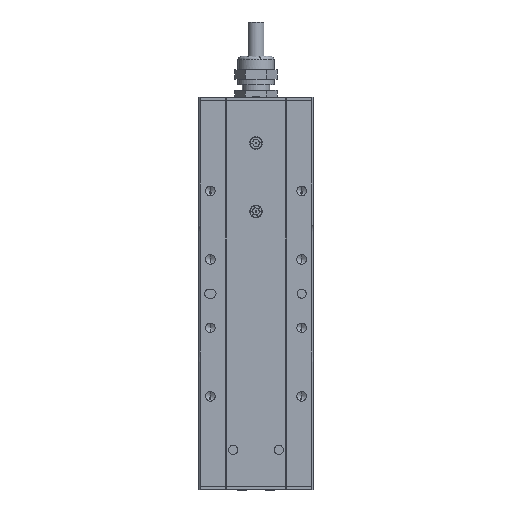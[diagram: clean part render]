
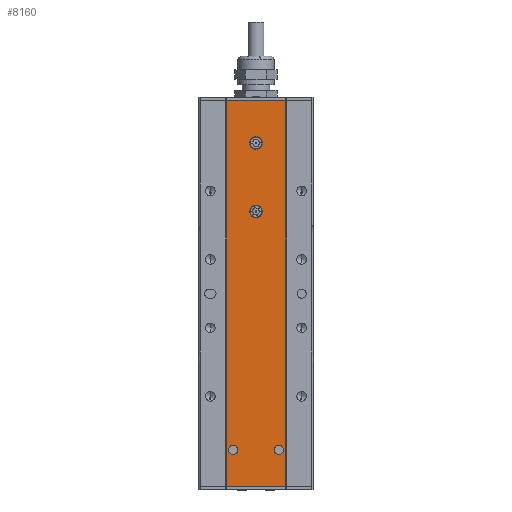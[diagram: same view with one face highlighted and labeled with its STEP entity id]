
A CAD part, front view. The second image highlights one B-rep face of the part: STEP entity #8160.
In plain terms, the highlighted planar face has unit normal (0, -1, 0).
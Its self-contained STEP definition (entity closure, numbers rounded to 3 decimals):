
#247 = CARTESIAN_POINT ( 'NONE',  ( -14.473, -32.808, 151.5 ) ) ;
#591 = EDGE_CURVE ( 'NONE', #10773, #997, #2281, .T. ) ;
#984 = EDGE_CURVE ( 'NONE', #15352, #23747, #11794, .T. ) ;
#997 = VERTEX_POINT ( 'NONE', #9321 ) ;
#1211 = CARTESIAN_POINT ( 'NONE',  ( 8.527, -32.808, -1.5 ) ) ;
#1873 = CIRCLE ( 'NONE', #29083, 2. ) ;
#1974 = ORIENTED_EDGE ( 'NONE', *, *, #20719, .F. ) ;
#2120 = DIRECTION ( 'NONE',  ( 0., 0., 1. ) ) ;
#2281 = LINE ( 'NONE', #13129, #8022 ) ;
#2317 = CARTESIAN_POINT ( 'NONE',  ( -1.473, -32.808, 133. ) ) ;
#2441 = CIRCLE ( 'NONE', #31948, 2.75 ) ;
#3198 = CARTESIAN_POINT ( 'NONE',  ( -1.473, -32.808, 103. ) ) ;
#3621 = EDGE_LOOP ( 'NONE', ( #14275, #32493 ) ) ;
#3631 = DIRECTION ( 'NONE',  ( 0., -1., 0. ) ) ;
#3708 = VECTOR ( 'NONE', #33297, 1000. ) ;
#4492 = ORIENTED_EDGE ( 'NONE', *, *, #591, .T. ) ;
#4575 = DIRECTION ( 'NONE',  ( 0., -1., 0. ) ) ;
#5421 = EDGE_CURVE ( 'NONE', #28842, #7951, #9418, .T. ) ;
#5681 = VERTEX_POINT ( 'NONE', #25916 ) ;
#5688 = ORIENTED_EDGE ( 'NONE', *, *, #25549, .T. ) ;
#5795 = VERTEX_POINT ( 'NONE', #18660 ) ;
#5843 = AXIS2_PLACEMENT_3D ( 'NONE', #25371, #30870, #20236 ) ;
#6345 = ORIENTED_EDGE ( 'NONE', *, *, #32225, .F. ) ;
#6439 = EDGE_LOOP ( 'NONE', ( #6345, #18085 ) ) ;
#6615 = ORIENTED_EDGE ( 'NONE', *, *, #16419, .F. ) ;
#7038 = EDGE_CURVE ( 'NONE', #10773, #15352, #13722, .T. ) ;
#7196 = AXIS2_PLACEMENT_3D ( 'NONE', #26070, #4575, #15403 ) ;
#7325 = DIRECTION ( 'NONE',  ( -1., 0., 0. ) ) ;
#7668 = CARTESIAN_POINT ( 'NONE',  ( 1.277, -32.808, 133. ) ) ;
#7951 = VERTEX_POINT ( 'NONE', #33763 ) ;
#7953 = CARTESIAN_POINT ( 'NONE',  ( -14.473, -32.808, 151.5 ) ) ;
#8022 = VECTOR ( 'NONE', #2120, 1000. ) ;
#8121 = EDGE_CURVE ( 'NONE', #33781, #5795, #2441, .T. ) ;
#8160 = ADVANCED_FACE ( 'NONE', ( #30353, #16890, #8889, #19715, #30532 ), #11165, .F. ) ;
#8247 = EDGE_CURVE ( 'NONE', #35024, #26654, #1873, .T. ) ;
#8366 = EDGE_LOOP ( 'NONE', ( #6615, #21748 ) ) ;
#8670 = CIRCLE ( 'NONE', #28474, 2. ) ;
#8889 = FACE_BOUND ( 'NONE', #8366, .T. ) ;
#9321 = CARTESIAN_POINT ( 'NONE',  ( 11.527, -32.808, 151.5 ) ) ;
#9418 = CIRCLE ( 'NONE', #25269, 2. ) ;
#9460 = CARTESIAN_POINT ( 'NONE',  ( -11.473, -32.808, -1.5 ) ) ;
#10773 = VERTEX_POINT ( 'NONE', #32602 ) ;
#10991 = EDGE_LOOP ( 'NONE', ( #5688, #17618, #21182, #4492 ) ) ;
#10999 = DIRECTION ( 'NONE',  ( 0., -1., 0. ) ) ;
#11165 = PLANE ( 'NONE',  #5843 ) ;
#11784 = CIRCLE ( 'NONE', #28203, 2.75 ) ;
#11794 = LINE ( 'NONE', #22471, #3708 ) ;
#13129 = CARTESIAN_POINT ( 'NONE',  ( 11.527, -32.808, -17.5 ) ) ;
#13449 = CARTESIAN_POINT ( 'NONE',  ( -14.473, -32.808, -17.5 ) ) ;
#13588 = LINE ( 'NONE', #247, #25883 ) ;
#13722 = LINE ( 'NONE', #32724, #26505 ) ;
#13922 = DIRECTION ( 'NONE',  ( -1., 0., 0. ) ) ;
#13932 = DIRECTION ( 'NONE',  ( 0., -1., 0. ) ) ;
#14275 = ORIENTED_EDGE ( 'NONE', *, *, #8247, .F. ) ;
#14283 = CARTESIAN_POINT ( 'NONE',  ( -1.473, -32.808, 103. ) ) ;
#14383 = DIRECTION ( 'NONE',  ( -1., 0., 0. ) ) ;
#14466 = DIRECTION ( 'NONE',  ( 1., 0., 0. ) ) ;
#14828 = CARTESIAN_POINT ( 'NONE',  ( -11.473, -32.808, -1.5 ) ) ;
#14914 = VERTEX_POINT ( 'NONE', #7668 ) ;
#15352 = VERTEX_POINT ( 'NONE', #13449 ) ;
#15403 = DIRECTION ( 'NONE',  ( 1., 0., 0. ) ) ;
#15537 = DIRECTION ( 'NONE',  ( -1., 0., 0. ) ) ;
#16419 = EDGE_CURVE ( 'NONE', #7951, #28842, #8670, .T. ) ;
#16890 = FACE_BOUND ( 'NONE', #6439, .T. ) ;
#17618 = ORIENTED_EDGE ( 'NONE', *, *, #984, .F. ) ;
#18085 = ORIENTED_EDGE ( 'NONE', *, *, #8121, .F. ) ;
#18660 = CARTESIAN_POINT ( 'NONE',  ( 1.277, -32.808, 103. ) ) ;
#19715 = FACE_OUTER_BOUND ( 'NONE', #10991, .T. ) ;
#20112 = DIRECTION ( 'NONE',  ( 0., -1., 0. ) ) ;
#20236 = DIRECTION ( 'NONE',  ( -1., 0., 0. ) ) ;
#20407 = EDGE_CURVE ( 'NONE', #26654, #35024, #32120, .T. ) ;
#20719 = EDGE_CURVE ( 'NONE', #5681, #14914, #30971, .T. ) ;
#21182 = ORIENTED_EDGE ( 'NONE', *, *, #7038, .F. ) ;
#21680 = CIRCLE ( 'NONE', #29612, 2.75 ) ;
#21748 = ORIENTED_EDGE ( 'NONE', *, *, #5421, .F. ) ;
#22471 = CARTESIAN_POINT ( 'NONE',  ( -14.473, -32.808, -17.5 ) ) ;
#22561 = EDGE_CURVE ( 'NONE', #14914, #5681, #21680, .T. ) ;
#23747 = VERTEX_POINT ( 'NONE', #7953 ) ;
#24783 = CARTESIAN_POINT ( 'NONE',  ( 10.527, -32.808, -1.5 ) ) ;
#25015 = DIRECTION ( 'NONE',  ( 1., 0., 0. ) ) ;
#25269 = AXIS2_PLACEMENT_3D ( 'NONE', #9460, #20112, #7325 ) ;
#25371 = CARTESIAN_POINT ( 'NONE',  ( -14.473, -32.808, -17.5 ) ) ;
#25549 = EDGE_CURVE ( 'NONE', #997, #23747, #13588, .T. ) ;
#25827 = DIRECTION ( 'NONE',  ( 0., -1., 0. ) ) ;
#25883 = VECTOR ( 'NONE', #13922, 1000. ) ;
#25916 = CARTESIAN_POINT ( 'NONE',  ( -4.223, -32.808, 133. ) ) ;
#26070 = CARTESIAN_POINT ( 'NONE',  ( -1.473, -32.808, 133. ) ) ;
#26426 = ORIENTED_EDGE ( 'NONE', *, *, #22561, .F. ) ;
#26505 = VECTOR ( 'NONE', #30045, 1000. ) ;
#26654 = VERTEX_POINT ( 'NONE', #27030 ) ;
#27030 = CARTESIAN_POINT ( 'NONE',  ( 6.527, -32.808, -1.5 ) ) ;
#28203 = AXIS2_PLACEMENT_3D ( 'NONE', #14283, #3631, #14466 ) ;
#28474 = AXIS2_PLACEMENT_3D ( 'NONE', #14828, #25827, #15537 ) ;
#28842 = VERTEX_POINT ( 'NONE', #31431 ) ;
#29083 = AXIS2_PLACEMENT_3D ( 'NONE', #1211, #31408, #14383 ) ;
#29612 = AXIS2_PLACEMENT_3D ( 'NONE', #2317, #32342, #34623 ) ;
#29735 = CARTESIAN_POINT ( 'NONE',  ( 8.527, -32.808, -1.5 ) ) ;
#30045 = DIRECTION ( 'NONE',  ( -1., 0., 0. ) ) ;
#30254 = DIRECTION ( 'NONE',  ( -1., 0., 0. ) ) ;
#30353 = FACE_BOUND ( 'NONE', #33042, .T. ) ;
#30532 = FACE_BOUND ( 'NONE', #3621, .T. ) ;
#30870 = DIRECTION ( 'NONE',  ( 0., 1., 0. ) ) ;
#30952 = AXIS2_PLACEMENT_3D ( 'NONE', #29735, #13932, #30254 ) ;
#30971 = CIRCLE ( 'NONE', #7196, 2.75 ) ;
#31408 = DIRECTION ( 'NONE',  ( 0., -1., 0. ) ) ;
#31431 = CARTESIAN_POINT ( 'NONE',  ( -13.473, -32.808, -1.5 ) ) ;
#31948 = AXIS2_PLACEMENT_3D ( 'NONE', #3198, #10999, #25015 ) ;
#32120 = CIRCLE ( 'NONE', #30952, 2. ) ;
#32225 = EDGE_CURVE ( 'NONE', #5795, #33781, #11784, .T. ) ;
#32342 = DIRECTION ( 'NONE',  ( 0., -1., 0. ) ) ;
#32493 = ORIENTED_EDGE ( 'NONE', *, *, #20407, .F. ) ;
#32602 = CARTESIAN_POINT ( 'NONE',  ( 11.527, -32.808, -17.5 ) ) ;
#32724 = CARTESIAN_POINT ( 'NONE',  ( -14.473, -32.808, -17.5 ) ) ;
#33042 = EDGE_LOOP ( 'NONE', ( #26426, #1974 ) ) ;
#33297 = DIRECTION ( 'NONE',  ( 0., 0., 1. ) ) ;
#33359 = CARTESIAN_POINT ( 'NONE',  ( -4.223, -32.808, 103. ) ) ;
#33763 = CARTESIAN_POINT ( 'NONE',  ( -9.473, -32.808, -1.5 ) ) ;
#33781 = VERTEX_POINT ( 'NONE', #33359 ) ;
#34623 = DIRECTION ( 'NONE',  ( 1., 0., 0. ) ) ;
#35024 = VERTEX_POINT ( 'NONE', #24783 ) ;
